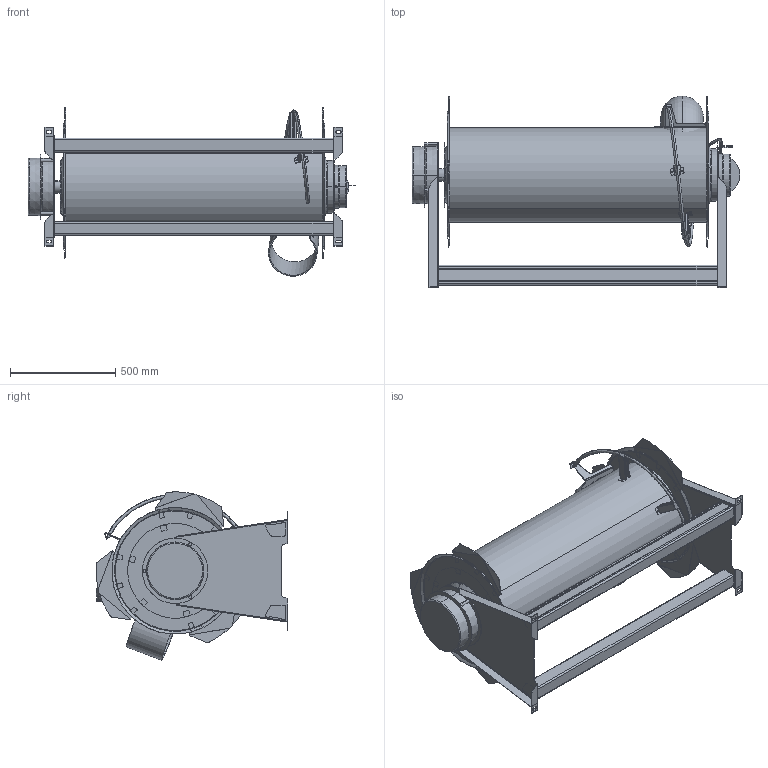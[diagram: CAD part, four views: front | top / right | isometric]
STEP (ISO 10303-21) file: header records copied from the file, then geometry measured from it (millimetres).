
FILE_DESCRIPTION((''),'2;1');
FILE_NAME('G_ASE200','2018-07-31T',('Tomas Bellgran'),(''),'CREO PARAMETRIC BY PTC INC, 2016130','CREO PARAMETRIC BY PTC INC, 2016130','');
FILE_SCHEMA(('AUTOMOTIVE_DESIGN { 1 0 10303 214 1 1 1 1 }'));
Length unit declared in the file: millimetre
Products named in the file (40): 110964; 110942; 110944; 110946; 110947; 110648; 110645; 110657; 110633; 110634; 110649; 110643; 110959; 110646; 110647; 110485; 110803; 110529; 111052; 110997; 110528; 110996; 110978; 110661; 110696; 127974; G_HIBKM_MN_200-90; 127975; 110988; 110960; 110966; SPRING_DUMMY; 110618; 110685; 110628; SPACER_DUMMY; 110462; 110491; 129022; G_ASE200
Assembly tree (47 placements, depth 6):
  G_ASE200
    110485
      110964
      110942
      110959
        110947
          110944
          110946
        110649
          110657
            110648
            110645
          110633
          110634
        110643
      110647
        110646
    110803  x2
    110960
      110997
        110529
        111052  x3
      110996
        110528
        111052  x3
      110978
      110661  x2
      110696
      127974
      127975
        G_HIBKM_MN_200-90
      110988
    110491
      110966
      110462
        SPRING_DUMMY  x2
        110628
          110618
          110685
        SPACER_DUMMY
    129022
Bounding box: 1556.39 x 910 x 799.14 mm (x, y, z)
Volume: 218367353.4 mm3; surface area: 6907135 mm2
Topology: 35 solids, 35 shells, 1288 faces, 3157 edges, 1941 vertices
Faces by surface type: plane 616, cylinder 537, cone 52, bspline 45, torus 36, sphere 2
Entity records: 50127 total; most frequent: CARTESIAN_POINT 8223, DIRECTION 4495, ORIENTED_EDGE 4026, PRESENTATION_STYLE_ASSIGNMENT 2430, STYLED_ITEM 2424, PROPERTY_DEFINITION 2102, REPRESENTATION 2077, PROPERTY_DEFINITION_REPRESENTATION 2077
